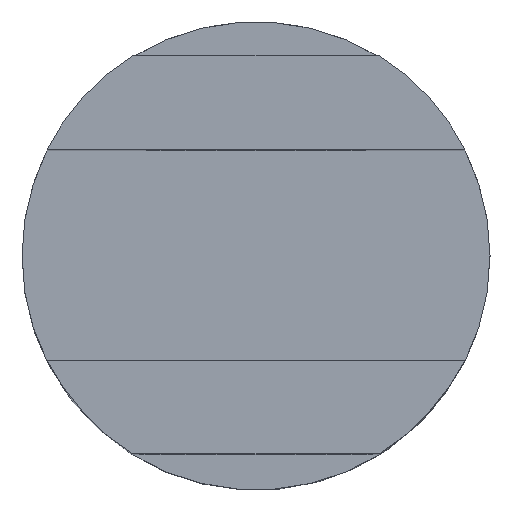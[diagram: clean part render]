
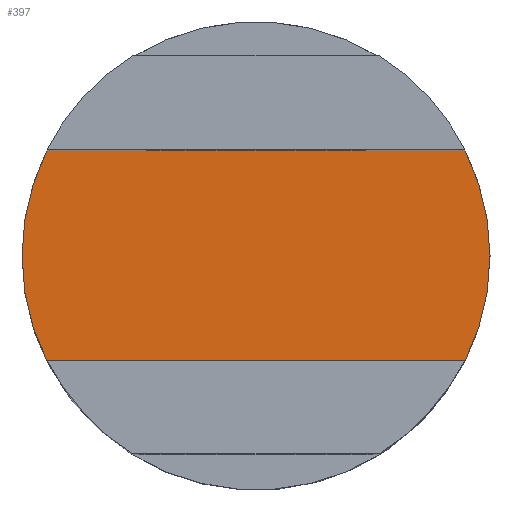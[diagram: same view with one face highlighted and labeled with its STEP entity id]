
A CAD part, top view. The second image highlights one B-rep face of the part: STEP entity #397.
In plain terms, the highlighted planar face has unit normal (0, 0, 1).
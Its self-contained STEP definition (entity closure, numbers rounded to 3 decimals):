
#29=PLANE('',#430);
#47=LINE('',#585,#63);
#48=LINE('',#586,#64);
#63=VECTOR('',#500,1000.);
#64=VECTOR('',#501,1000.);
#104=ORIENTED_EDGE('',*,*,#139,.T.);
#105=ORIENTED_EDGE('',*,*,#156,.F.);
#106=ORIENTED_EDGE('',*,*,#147,.T.);
#107=ORIENTED_EDGE('',*,*,#157,.T.);
#139=EDGE_CURVE('',#173,#172,#194,.T.);
#147=EDGE_CURVE('',#166,#180,#198,.T.);
#156=EDGE_CURVE('',#166,#172,#47,.T.);
#157=EDGE_CURVE('',#180,#173,#48,.T.);
#166=VERTEX_POINT('',#538);
#172=VERTEX_POINT('',#550);
#173=VERTEX_POINT('',#552);
#180=VERTEX_POINT('',#566);
#194=CIRCLE('',#417,10.);
#198=CIRCLE('',#421,10.);
#217=EDGE_LOOP('',(#104,#105,#106,#107));
#245=FACE_BOUND('',#217,.T.);
#397=ADVANCED_FACE('',(#245),#29,.T.);
#417=AXIS2_PLACEMENT_3D('',#551,#462,#463);
#421=AXIS2_PLACEMENT_3D('',#567,#474,#475);
#430=AXIS2_PLACEMENT_3D('',#584,#498,#499);
#462=DIRECTION('',(0.,0.,1.));
#463=DIRECTION('',(1.,0.,0.));
#474=DIRECTION('',(0.,0.,1.));
#475=DIRECTION('',(1.,0.,0.));
#498=DIRECTION('',(0.,0.,1.));
#499=DIRECTION('',(1.,0.,0.));
#500=DIRECTION('',(-1.,0.,0.));
#501=DIRECTION('',(-1.,0.,0.));
#538=CARTESIAN_POINT('',(8.93,-4.5,-25.));
#550=CARTESIAN_POINT('',(-8.93,-4.5,-25.));
#551=CARTESIAN_POINT('',(0.,0.,-25.));
#552=CARTESIAN_POINT('',(-8.93,4.5,-25.));
#566=CARTESIAN_POINT('',(8.93,4.5,-25.));
#567=CARTESIAN_POINT('',(0.,0.,-25.));
#584=CARTESIAN_POINT('',(57.717,-4.5,-25.));
#585=CARTESIAN_POINT('',(57.717,-4.5,-25.));
#586=CARTESIAN_POINT('',(57.717,4.5,-25.));
